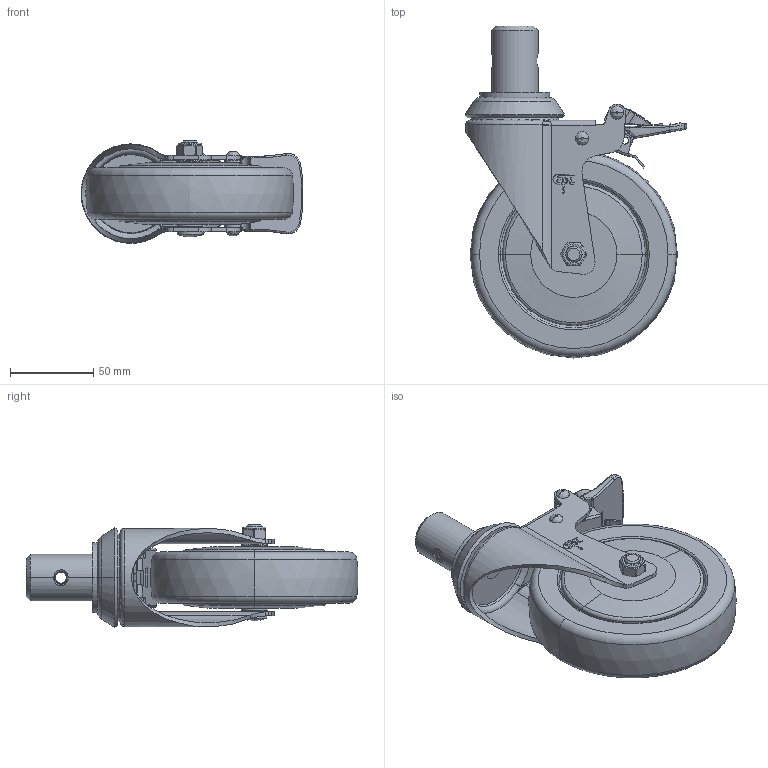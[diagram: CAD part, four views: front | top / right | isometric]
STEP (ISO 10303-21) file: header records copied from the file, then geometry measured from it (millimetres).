
FILE_DESCRIPTION((''),'2;1');
FILE_NAME('57265H-575-77_ASM','2021-01-05T',('lenovo'),(''),'PRO/ENGINEER BY PARAMETRIC TECHNOLOGY CORPORATION, 2010280','PRO/ENGINEER BY PARAMETRIC TECHNOLOGY CORPORATION, 2010280','');
FILE_SCHEMA(('CONFIG_CONTROL_DESIGN'));
Length unit declared in the file: millimetre
Products named in the file (10): 5710-055; 5725-321; 5720-211; 575-77; 5710-020; 5710-031; 570-64OFF; 5734-401; 571-64ON; 57265H-575-77_ASM
Assembly tree (9 placements, depth 2):
  57265H-575-77_ASM
    5710-055
    5725-321
    5720-211
    575-77
    5710-020
    5710-031
    570-64OFF
    5734-401
    571-64ON
Bounding box: 133.65 x 199.93 x 62 mm (x, y, z)
Volume: 505772.2 mm3; surface area: 104262.6 mm2
Topology: 9 solids, 9 shells, 844 faces, 2224 edges, 1411 vertices
Faces by surface type: plane 397, cylinder 234, bspline 109, cone 62, torus 38, sphere 4
Entity records: 35398 total; most frequent: CARTESIAN_POINT 15164, ORIENTED_EDGE 4436, DIRECTION 3828, EDGE_CURVE 2218, VERTEX_POINT 1409, AXIS2_PLACEMENT_3D 1312, VECTOR 1204, LINE 1204
